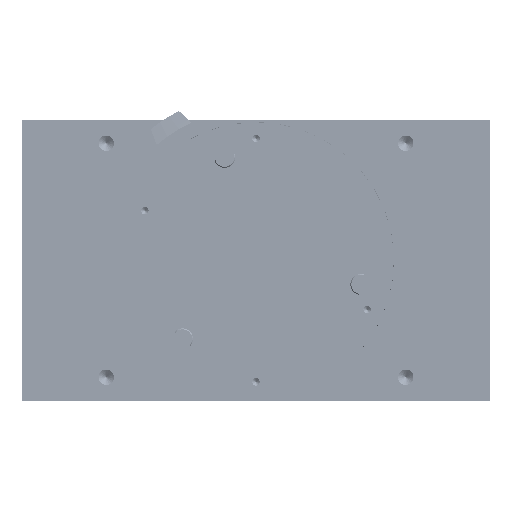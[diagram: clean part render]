
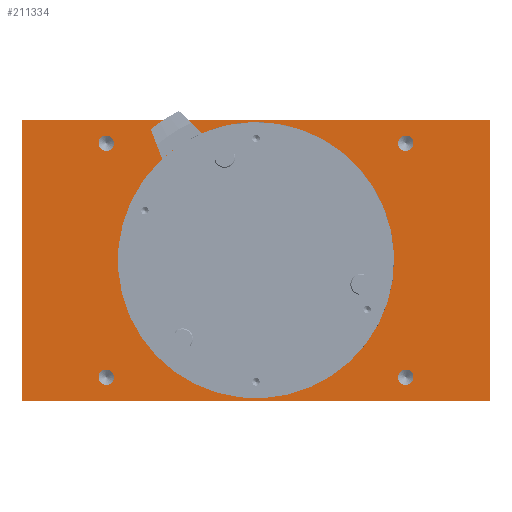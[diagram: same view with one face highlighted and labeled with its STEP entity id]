
A CAD part, left-side view. The second image highlights one B-rep face of the part: STEP entity #211334.
In plain terms, the highlighted planar face has unit normal (-1, 0, 0).
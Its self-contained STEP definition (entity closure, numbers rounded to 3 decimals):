
#10418 = LINE ( 'NONE', #742409, #611250 ) ;
#31782 = CARTESIAN_POINT ( 'NONE',  ( 0., 50., 30. ) ) ;
#34733 = VERTEX_POINT ( 'NONE', #31782 ) ;
#44581 = EDGE_CURVE ( 'NONE', #214823, #214823, #112256, .T. ) ;
#45334 = CIRCLE ( 'NONE', #460817, 27.8 ) ;
#65210 = DIRECTION ( 'NONE',  ( 0., 1., 0. ) ) ;
#77675 = ORIENTED_EDGE ( 'NONE', *, *, #511877, .F. ) ;
#100618 = CARTESIAN_POINT ( 'NONE',  ( 0., -50., 30. ) ) ;
#102117 = EDGE_CURVE ( 'NONE', #155616, #155616, #614431, .T. ) ;
#105616 = VERTEX_POINT ( 'NONE', #372144 ) ;
#106952 = CARTESIAN_POINT ( 'NONE',  ( 0., 32., -23.35 ) ) ;
#112256 = CIRCLE ( 'NONE', #408470, 1.65 ) ;
#113858 = FACE_BOUND ( 'NONE', #766535, .T. ) ;
#114324 = EDGE_LOOP ( 'NONE', ( #545041, #140062, #381566, #477344 ) ) ;
#119406 = CARTESIAN_POINT ( 'NONE',  ( 0., -32., -25. ) ) ;
#133295 = FACE_BOUND ( 'NONE', #246107, .T. ) ;
#135098 = VERTEX_POINT ( 'NONE', #212992 ) ;
#140062 = ORIENTED_EDGE ( 'NONE', *, *, #154586, .F. ) ;
#154318 = CARTESIAN_POINT ( 'NONE',  ( 0., 0., 0. ) ) ;
#154586 = EDGE_CURVE ( 'NONE', #286398, #596589, #629924, .T. ) ;
#155013 = CARTESIAN_POINT ( 'NONE',  ( 0., -50., -30. ) ) ;
#155616 = VERTEX_POINT ( 'NONE', #801078 ) ;
#190200 = DIRECTION ( 'NONE',  ( 0., 0., -1. ) ) ;
#190563 = DIRECTION ( 'NONE',  ( -1., 0., 0. ) ) ;
#211334 = ADVANCED_FACE ( 'NONE', ( #113858, #588793, #365848, #463070, #133295, #724079 ), #708393, .F. ) ;
#212992 = CARTESIAN_POINT ( 'NONE',  ( 0., 0., 27.8 ) ) ;
#214823 = VERTEX_POINT ( 'NONE', #357304 ) ;
#218253 = DIRECTION ( 'NONE',  ( 1., 0., 0. ) ) ;
#221231 = EDGE_CURVE ( 'NONE', #438626, #34733, #616217, .T. ) ;
#246107 = EDGE_LOOP ( 'NONE', ( #321172 ) ) ;
#259210 = AXIS2_PLACEMENT_3D ( 'NONE', #532324, #218253, #337384 ) ;
#265412 = EDGE_CURVE ( 'NONE', #596589, #438626, #10418, .T. ) ;
#286398 = VERTEX_POINT ( 'NONE', #100618 ) ;
#300899 = ORIENTED_EDGE ( 'NONE', *, *, #102117, .F. ) ;
#307791 = ORIENTED_EDGE ( 'NONE', *, *, #689998, .F. ) ;
#313926 = DIRECTION ( 'NONE',  ( 0., -1., 0. ) ) ;
#321172 = ORIENTED_EDGE ( 'NONE', *, *, #481911, .F. ) ;
#337384 = DIRECTION ( 'NONE',  ( 0., 0., -1. ) ) ;
#338686 = CARTESIAN_POINT ( 'NONE',  ( 0., 50., -30. ) ) ;
#347978 = LINE ( 'NONE', #487693, #725543 ) ;
#353415 = CIRCLE ( 'NONE', #487509, 1.65 ) ;
#357304 = CARTESIAN_POINT ( 'NONE',  ( 0., -32., 26.65 ) ) ;
#363082 = ORIENTED_EDGE ( 'NONE', *, *, #44581, .F. ) ;
#365848 = FACE_BOUND ( 'NONE', #370641, .T. ) ;
#368689 = DIRECTION ( 'NONE',  ( -1., 0., 0. ) ) ;
#370641 = EDGE_LOOP ( 'NONE', ( #363082 ) ) ;
#372144 = CARTESIAN_POINT ( 'NONE',  ( 0., -32., -23.35 ) ) ;
#381566 = ORIENTED_EDGE ( 'NONE', *, *, #422701, .F. ) ;
#407568 = AXIS2_PLACEMENT_3D ( 'NONE', #439685, #190563, #745617 ) ;
#408470 = AXIS2_PLACEMENT_3D ( 'NONE', #668795, #730914, #422292 ) ;
#422292 = DIRECTION ( 'NONE',  ( 0., 0., 1. ) ) ;
#422701 = EDGE_CURVE ( 'NONE', #34733, #286398, #347978, .T. ) ;
#437547 = AXIS2_PLACEMENT_3D ( 'NONE', #119406, #368689, #545001 ) ;
#438626 = VERTEX_POINT ( 'NONE', #338686 ) ;
#439685 = CARTESIAN_POINT ( 'NONE',  ( 0., 32., 25. ) ) ;
#447847 = CARTESIAN_POINT ( 'NONE',  ( 0., 50., 30. ) ) ;
#460817 = AXIS2_PLACEMENT_3D ( 'NONE', #154318, #587598, #471203 ) ;
#463070 = FACE_BOUND ( 'NONE', #566825, .T. ) ;
#471203 = DIRECTION ( 'NONE',  ( 0., 0., 1. ) ) ;
#477344 = ORIENTED_EDGE ( 'NONE', *, *, #221231, .F. ) ;
#479752 = EDGE_LOOP ( 'NONE', ( #300899 ) ) ;
#481911 = EDGE_CURVE ( 'NONE', #135098, #135098, #45334, .T. ) ;
#487509 = AXIS2_PLACEMENT_3D ( 'NONE', #661433, #539582, #720909 ) ;
#487693 = CARTESIAN_POINT ( 'NONE',  ( 0., 50., 30. ) ) ;
#511877 = EDGE_CURVE ( 'NONE', #697080, #697080, #353415, .T. ) ;
#532324 = CARTESIAN_POINT ( 'NONE',  ( 0., 0., 0. ) ) ;
#539582 = DIRECTION ( 'NONE',  ( -1., 0., 0. ) ) ;
#544311 = CIRCLE ( 'NONE', #437547, 1.65 ) ;
#545001 = DIRECTION ( 'NONE',  ( 0., 0., 1. ) ) ;
#545041 = ORIENTED_EDGE ( 'NONE', *, *, #265412, .F. ) ;
#566825 = EDGE_LOOP ( 'NONE', ( #307791 ) ) ;
#587598 = DIRECTION ( 'NONE',  ( -1., 0., 0. ) ) ;
#588793 = FACE_BOUND ( 'NONE', #479752, .T. ) ;
#596589 = VERTEX_POINT ( 'NONE', #155013 ) ;
#611250 = VECTOR ( 'NONE', #65210, 1000. ) ;
#614431 = CIRCLE ( 'NONE', #407568, 1.65 ) ;
#616217 = LINE ( 'NONE', #447847, #665383 ) ;
#626122 = CARTESIAN_POINT ( 'NONE',  ( 0., -50., 30. ) ) ;
#629924 = LINE ( 'NONE', #626122, #678815 ) ;
#661433 = CARTESIAN_POINT ( 'NONE',  ( 0., 32., -25. ) ) ;
#665383 = VECTOR ( 'NONE', #761861, 1000. ) ;
#668795 = CARTESIAN_POINT ( 'NONE',  ( 0., -32., 25. ) ) ;
#678815 = VECTOR ( 'NONE', #190200, 1000. ) ;
#689998 = EDGE_CURVE ( 'NONE', #105616, #105616, #544311, .T. ) ;
#697080 = VERTEX_POINT ( 'NONE', #106952 ) ;
#708393 = PLANE ( 'NONE',  #259210 ) ;
#720909 = DIRECTION ( 'NONE',  ( 0., 0., 1. ) ) ;
#724079 = FACE_OUTER_BOUND ( 'NONE', #114324, .T. ) ;
#725543 = VECTOR ( 'NONE', #313926, 1000. ) ;
#730914 = DIRECTION ( 'NONE',  ( -1., 0., 0. ) ) ;
#742409 = CARTESIAN_POINT ( 'NONE',  ( 0., 50., -30. ) ) ;
#745617 = DIRECTION ( 'NONE',  ( 0., 0., 1. ) ) ;
#761861 = DIRECTION ( 'NONE',  ( 0., 0., 1. ) ) ;
#766535 = EDGE_LOOP ( 'NONE', ( #77675 ) ) ;
#801078 = CARTESIAN_POINT ( 'NONE',  ( 0., 32., 26.65 ) ) ;
